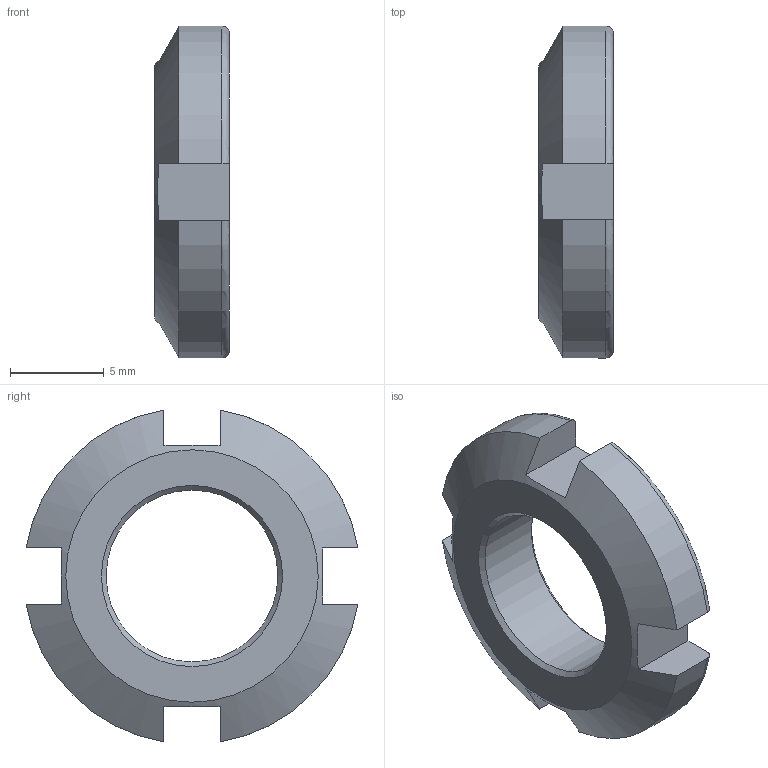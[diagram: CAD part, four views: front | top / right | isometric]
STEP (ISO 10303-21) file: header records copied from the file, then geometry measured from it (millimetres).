
FILE_DESCRIPTION(/* description */ ('Locknuts and locking devices-Dimensions - Locknuts(4 slots)'),/* implementation_level */ '2;1');
FILE_NAME(/* name */ 'D:\lock nut\LOCK NUT ISO 2982-2 - M10 x 0,75 x 13,5.stp',/* time_stamp */ '2022-04-01T13:46:20+07:00',/* author */ ('USER'),/* organization */ (''),/* preprocessor_version */ 'ST-DEVELOPER v16.1',/* originating_system */ 'Autodesk Inventor 2016',/* authorisation */ '');
FILE_SCHEMA (('AUTOMOTIVE_DESIGN { 1 0 10303 214 3 1 1 }'));
Length unit declared in the file: millimetre
Products named in the file (1): LOCK NUT ISO 2982-2 - M10 x 0,75 x 13,5
Bounding box: 4 x 17.75 x 17.75 mm (x, y, z)
Volume: 596.9 mm3; surface area: 656.6 mm2
Topology: 1 solids, 1 shells, 26 faces, 72 edges, 48 vertices
Faces by surface type: plane 14, cylinder 5, torus 4, cone 3
Full cylindrical faces by diameter (mm): 9.188 x1
Entity records: 858 total; most frequent: CARTESIAN_POINT 233, ORIENTED_EDGE 130, DIRECTION 116, EDGE_CURVE 65, VERTEX_POINT 45, AXIS2_PLACEMENT_3D 44, EDGE_LOOP 32, LINE 28
